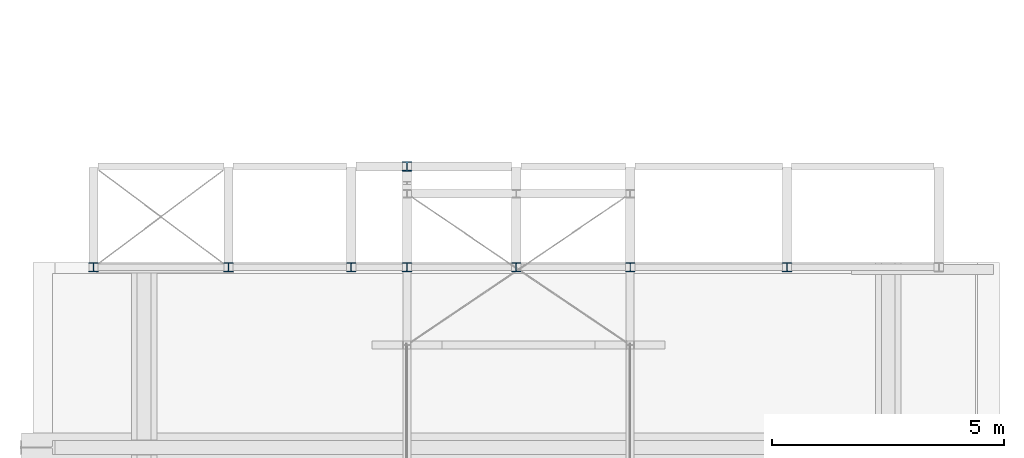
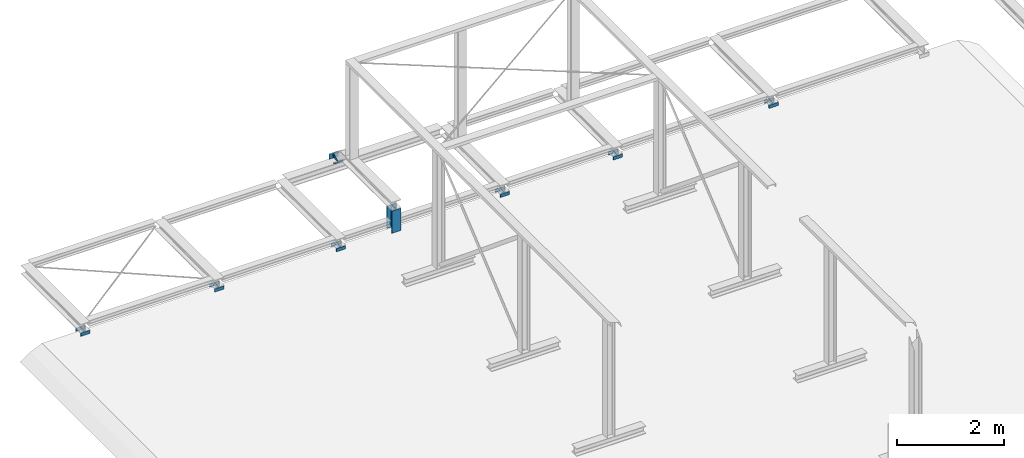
# One storey, part 5 of 50: 8 columns.
"""IFC2X3 building model written with IfcOpenShell, lengths in millimetres."""

from ifc_helpers import new_model, entity, si_unit, converted_unit, derived_unit, direction, frame, frame_2d, origin, place, context, subcontext, project, spatial, polyline, circle_curve, parameter, trimmed, segment, composite_curve, i_section, outline, extrude, clip, halfspace, source, transform, mapped, material, type_object, type_shapes, element, save


model = new_model("IFC2X3")

# Units and contexts
model_context = context("Model", 3, precision=0.01, world=origin(), true_north=direction((6.12303176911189e-17, 1.0)))
body_context = subcontext(model_context, "Body", "Model", "MODEL_VIEW")
ifc_project = project(units=[si_unit("LENGTHUNIT", "METRE", prefix="MILLI"), si_unit("AREAUNIT", "SQUARE_METRE", prefix="MILLI"), si_unit("VOLUMEUNIT", "CUBIC_METRE"), converted_unit("PLANEANGLEUNIT", "DEGREE", entity("IfcRatioMeasure", 0.0174532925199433), si_unit("PLANEANGLEUNIT", "RADIAN"), dimensions=[0, 0, 0, 0, 0, 0, 0]), si_unit("MASSUNIT", "GRAM", prefix="KILO"), derived_unit("MASSDENSITYUNIT", [(si_unit("MASSUNIT", "GRAM", prefix="KILO"), 1), (si_unit("LENGTHUNIT", "METRE"), -3)]), derived_unit("MOMENTOFINERTIAUNIT", [(si_unit("LENGTHUNIT", "METRE"), 4)]), si_unit("TIMEUNIT", "SECOND"), si_unit("FREQUENCYUNIT", "HERTZ"), si_unit("THERMODYNAMICTEMPERATUREUNIT", "DEGREE_CELSIUS"), derived_unit("THERMALTRANSMITTANCEUNIT", [(si_unit("MASSUNIT", "GRAM", prefix="KILO"), 1), (si_unit("THERMODYNAMICTEMPERATUREUNIT", "KELVIN"), -1), (si_unit("TIMEUNIT", "SECOND"), -3)]), derived_unit("VOLUMETRICFLOWRATEUNIT", [(si_unit("LENGTHUNIT", "METRE"), 3), (si_unit("TIMEUNIT", "SECOND"), -1)]), si_unit("ELECTRICCURRENTUNIT", "AMPERE"), si_unit("ELECTRICVOLTAGEUNIT", "VOLT"), si_unit("POWERUNIT", "WATT"), si_unit("FORCEUNIT", "NEWTON", prefix="KILO"), si_unit("ILLUMINANCEUNIT", "LUX"), si_unit("LUMINOUSFLUXUNIT", "LUMEN"), si_unit("LUMINOUSINTENSITYUNIT", "CANDELA"), derived_unit("USERDEFINED", [(si_unit("MASSUNIT", "GRAM", prefix="KILO"), -1), (si_unit("LENGTHUNIT", "METRE"), -2), (si_unit("TIMEUNIT", "SECOND"), 3), (si_unit("LUMINOUSFLUXUNIT", "LUMEN"), 1)]), derived_unit("LINEARVELOCITYUNIT", [(si_unit("LENGTHUNIT", "METRE"), 1), (si_unit("TIMEUNIT", "SECOND"), -1)]), si_unit("PRESSUREUNIT", "PASCAL"), derived_unit("USERDEFINED", [(si_unit("LENGTHUNIT", "METRE"), -2), (si_unit("MASSUNIT", "GRAM", prefix="KILO"), 1), (si_unit("TIMEUNIT", "SECOND"), -2)]), derived_unit("LINEARFORCEUNIT", [(si_unit("MASSUNIT", "GRAM", prefix="KILO"), 1), (si_unit("LENGTHUNIT", "METRE"), 1), (si_unit("TIMEUNIT", "SECOND"), -2), (si_unit("LENGTHUNIT", "METRE"), -1)]), derived_unit("PLANARFORCEUNIT", [(si_unit("MASSUNIT", "GRAM", prefix="KILO"), 1), (si_unit("LENGTHUNIT", "METRE"), 1), (si_unit("TIMEUNIT", "SECOND"), -2), (si_unit("LENGTHUNIT", "METRE"), -2)])], contexts=[model_context])

# Site, building, storey
site_placement = place(None, origin())
site = spatial("IfcSite", under=ifc_project, at=site_placement, Name="Theater aan de Parade", CompositionType="ELEMENT")
building_placement = place(site_placement, origin())
building = spatial("IfcBuilding", under=site, at=building_placement, Name="Theater aan de Parade", CompositionType="ELEMENT")
storey_placement = place(building_placement, frame((0.0, 0.0, 15820.0)))
storey = spatial("IfcBuildingStorey", under=building, at=storey_placement, Name="04 vierde verdieping", CompositionType="ELEMENT", Elevation=15820.0)

# Columns
ifc_material = material(Name="00_PBT_MAT_staal_S355")
column_type_1 = type_object("IfcColumnType", Name="28_PBT_SC_staal_H-profiel:S355_HE200B", PredefinedType="COLUMN", material=ifc_material)
shared_shape_1 = source(origin(), body_context, "Body", "SweptSolid", [
    extrude(outline(composite_curve([segment(polyline([(85.0, -100.0), (100.0, -100.0)]), True, "CONTINUOUS"), segment(polyline([(100.0, -100.0), (100.0, 100.0)]), True, "CONTINUOUS"), segment(polyline([(100.0, 100.0), (85.0, 100.0)]), True, "CONTINUOUS"), segment(polyline([(85.0, 100.0), (85.0, 22.5000000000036)]), True, "CONTINUOUS"), segment(trimmed(circle_curve(frame_2d((67.0, 22.5), x_axis=(1.0, 0.0)), 17.9999999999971), [parameter(269.999999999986)], [parameter(0.0)], True, "PARAMETER"), False, "CONTINUOUS"), segment(polyline([(67.0, 4.50000000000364), (-67.0, 4.50000000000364)]), True, "CONTINUOUS"), segment(trimmed(circle_curve(frame_2d((-67.0, 22.5), x_axis=(0.0, -1.0)), 17.9999999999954), [parameter(269.999999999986)], [parameter(0.0)], True, "PARAMETER"), False, "CONTINUOUS"), segment(polyline([(-85.0, 22.5000000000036), (-85.0, 100.0)]), True, "CONTINUOUS"), segment(polyline([(-85.0, 100.0), (-100.0, 100.0)]), True, "CONTINUOUS"), segment(polyline([(-100.0, 100.0), (-100.0, -100.0)]), True, "CONTINUOUS"), segment(polyline([(-100.0, -100.0), (-85.0, -100.0)]), True, "CONTINUOUS"), segment(polyline([(-85.0, -100.0), (-85.0, -22.4999999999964)]), True, "CONTINUOUS"), segment(trimmed(circle_curve(frame_2d((-67.0, -22.4999999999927), x_axis=(-1.0, 0.0)), 17.9999999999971), [parameter(269.999999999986)], [parameter(0.0)], True, "PARAMETER"), False, "CONTINUOUS"), segment(polyline([(-67.0, -4.49999999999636), (67.0, -4.49999999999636)]), True, "CONTINUOUS"), segment(trimmed(circle_curve(frame_2d((67.0, -22.4999999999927), x_axis=(0.0, 1.0)), 17.9999999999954), [parameter(269.999999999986)], [parameter(0.0)], True, "PARAMETER"), False, "CONTINUOUS"), segment(polyline([(85.0, -22.4999999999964), (85.0, -100.0)]), True, "CONTINUOUS")], self_intersect=False)), frame((23753.8569986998, 41473.3083270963, 15910.0), z_axis=(0.0, 0.0, 1.0), x_axis=(0.0, -1.0, 0.0)), (0.0, 0.0, 1.0), 509.999999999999),
])
type_shapes(column_type_1, [shared_shape_1])
column_1_placement = place(storey_placement, frame((0.0, 0.0, -15820.0)))
element("IfcColumn", 1, at=column_1_placement, inside=storey, type_object=column_type_1, material=ifc_material, Name="28_PBT_SC_staal_H-profiel:S355_HE200B", ObjectType="28_PBT_SC_staal_H-profiel:S355_HE200B", context=body_context, shape_type="MappedRepresentation", body=[
    mapped(shared_shape_1, transform((0.0, 0.0, 0.0), scale=1.0)),
])
column_type_2 = type_object("IfcColumnType", Name="28_PBT_SC_staal_H-profiel:S355_HE200B", PredefinedType="COLUMN", material=ifc_material)
shared_shape_2 = source(origin(), body_context, "Body", "SweptSolid", [
    extrude(i_section(OverallWidth=200.0, OverallDepth=200.0, WebThickness=8.99999999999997, FlangeThickness=14.9999999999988, FilletRadius=18.0, at=frame_2d((-4.05009359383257e-13, -1.4210854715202e-14), x_axis=(0.0, 1.0))), frame((0.0, 0.0, 15910.0), z_axis=(0.0, 0.0, 1.0), x_axis=(0.0, -1.0, 0.0)), (0.0, 0.0, 1.0), 72.000000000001),
])
type_shapes(column_type_2, [shared_shape_2])
for number, where, z_axis, x_axis in (
    (2, (26103.8570025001, 41473.3083270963, -15820.0), (0.0, 0.0, 1.0), (-1.0, 0.0, 0.0)),
    (3, (28558.3569986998, 41473.3083270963, -15820.0), (0.0, 0.0, 1.0), (-1.0, 0.0, 0.0)),
    (4, (31933.0224747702, 41473.3083270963, -15820.0), (0.0, 0.0, 1.0), (-1.0, 0.0, 0.0)),
    (5, (19911.7722688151, 41473.3083270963, -15820.0), (0.0, 0.0, 1.0), (-1.0, 0.0, 0.0)),
    (6, (17009.5277493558, 41473.3083270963, -15820.0), (0.0, 0.0, 1.0), (-1.0, 0.0, 0.0)),
    (7, (22553.8569987, 41473.3083270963, -15820.0), (0.0, 0.0, 1.0), (-1.0, 0.0, 0.0)),
):
    element("IfcColumn", number, at=place(storey_placement, frame(where, z_axis=z_axis, x_axis=x_axis)), inside=storey, type_object=column_type_2, material=ifc_material, Name="28_PBT_SC_staal_H-profiel:S355_HE200B", ObjectType="28_PBT_SC_staal_H-profiel:S355_HE200B", context=body_context, shape_type="MappedRepresentation", body=[
        mapped(shared_shape_2, transform((0.0, 0.0, 0.0), scale=1.0)),
    ])
column_type_3 = type_object("IfcColumnType", Name="28_PBT_SC_staal_H-profiel:S355_HE200B", PredefinedType="COLUMN", material=ifc_material)
shared_shape_3 = source(origin(), body_context, "Body", "Clipping", [
    clip(extrude(outline(composite_curve([segment(polyline([(85.0, -100.0), (100.0, -100.0)]), True, "CONTINUOUS"), segment(polyline([(100.0, -100.0), (100.0, 100.0)]), True, "CONTINUOUS"), segment(polyline([(100.0, 100.0), (85.0, 100.0)]), True, "CONTINUOUS"), segment(polyline([(85.0, 100.0), (85.0, 22.5)]), True, "CONTINUOUS"), segment(trimmed(circle_curve(frame_2d((67.0, 22.4999999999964), x_axis=(1.0, 0.0)), 17.9999999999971), [parameter(269.999999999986)], [parameter(0.0)], True, "PARAMETER"), False, "CONTINUOUS"), segment(polyline([(67.0, 4.5), (-67.0, 4.5)]), True, "CONTINUOUS"), segment(trimmed(circle_curve(frame_2d((-67.0, 22.4999999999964), x_axis=(0.0, -1.0)), 17.9999999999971), [parameter(269.999999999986)], [parameter(0.0)], True, "PARAMETER"), False, "CONTINUOUS"), segment(polyline([(-85.0, 22.5), (-85.0, 100.0)]), True, "CONTINUOUS"), segment(polyline([(-85.0, 100.0), (-100.0, 100.0)]), True, "CONTINUOUS"), segment(polyline([(-100.0, 100.0), (-100.0, -100.0)]), True, "CONTINUOUS"), segment(polyline([(-100.0, -100.0), (-85.0, -100.0)]), True, "CONTINUOUS"), segment(polyline([(-85.0, -100.0), (-85.0, -22.5000000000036)]), True, "CONTINUOUS"), segment(trimmed(circle_curve(frame_2d((-67.0, -22.5), x_axis=(-1.0, 0.0)), 17.9999999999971), [parameter(269.999999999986)], [parameter(0.0)], True, "PARAMETER"), False, "CONTINUOUS"), segment(polyline([(-67.0, -4.50000000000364), (67.0, -4.50000000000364)]), True, "CONTINUOUS"), segment(trimmed(circle_curve(frame_2d((67.0, -22.5), x_axis=(0.0, 1.0)), 17.9999999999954), [parameter(269.999999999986)], [parameter(0.0)], True, "PARAMETER"), False, "CONTINUOUS"), segment(polyline([(85.0, -22.5000000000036), (85.0, -100.0)]), True, "CONTINUOUS")], self_intersect=False)), frame((23753.8569986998, 43641.6918178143, 16182.0), z_axis=(0.0, 0.0, 1.0), x_axis=(0.0, -1.0, 0.0)), (0.0, 0.0, 1.0), 119.000000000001), halfspace(frame((23300.9354948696, 43741.6918178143, 16301.0), z_axis=(0.0, -0.448169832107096, 0.893948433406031), x_axis=(0.0, 0.893948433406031, 0.448169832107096)), False)),
])
type_shapes(column_type_3, [shared_shape_3])
column_2_placement = place(storey_placement, frame((0.0, 0.0, -15820.0)))
element("IfcColumn", 8, at=column_2_placement, inside=storey, type_object=column_type_3, material=ifc_material, Name="28_PBT_SC_staal_H-profiel:S355_HE200B", ObjectType="28_PBT_SC_staal_H-profiel:S355_HE200B", context=body_context, shape_type="MappedRepresentation", body=[
    mapped(shared_shape_3, transform((0.0, 0.0, 0.0), scale=1.0)),
])

save(model, "model.ifc")
